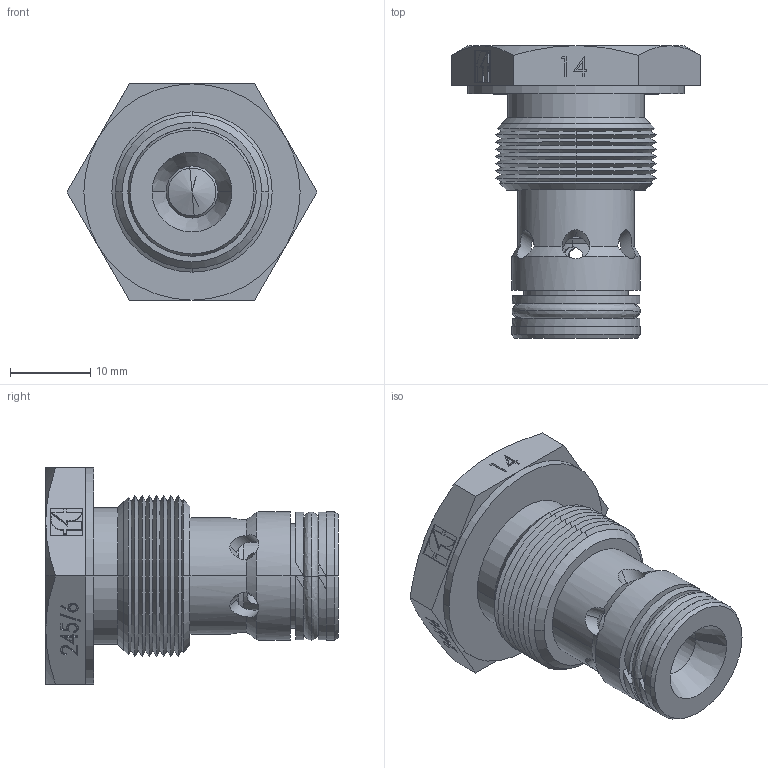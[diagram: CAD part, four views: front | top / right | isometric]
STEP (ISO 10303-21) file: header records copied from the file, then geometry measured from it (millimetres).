
FILE_DESCRIPTION (( 'STEP AP214' ), '1' );
FILE_NAME ('245-6-14.STEP', '2015-05-15T15:08:43', ( '' ), ( '' ), 'SwSTEP 2.0', 'SolidWorks 2014', '' );
FILE_SCHEMA (( 'AUTOMOTIVE_DESIGN' ));
Length unit declared in the file: millimetre
Products named in the file (1): 245-6-14
Bounding box: 31.18 x 36.5 x 27 mm (x, y, z)
Surface area: 5512 mm2 (no closed solid volume)
Topology: 0 solids, 8 shells, 262 faces, 715 edges, 452 vertices
Faces by surface type: plane 102, cone 75, cylinder 58, bspline 27
Entity records: 13491 total; most frequent: CARTESIAN_POINT 4298, ORIENTED_EDGE 1310, DIRECTION 1201, EDGE_CURVE 713, VERTEX_POINT 452, AXIS2_PLACEMENT_3D 405, LINE 391, VECTOR 391
